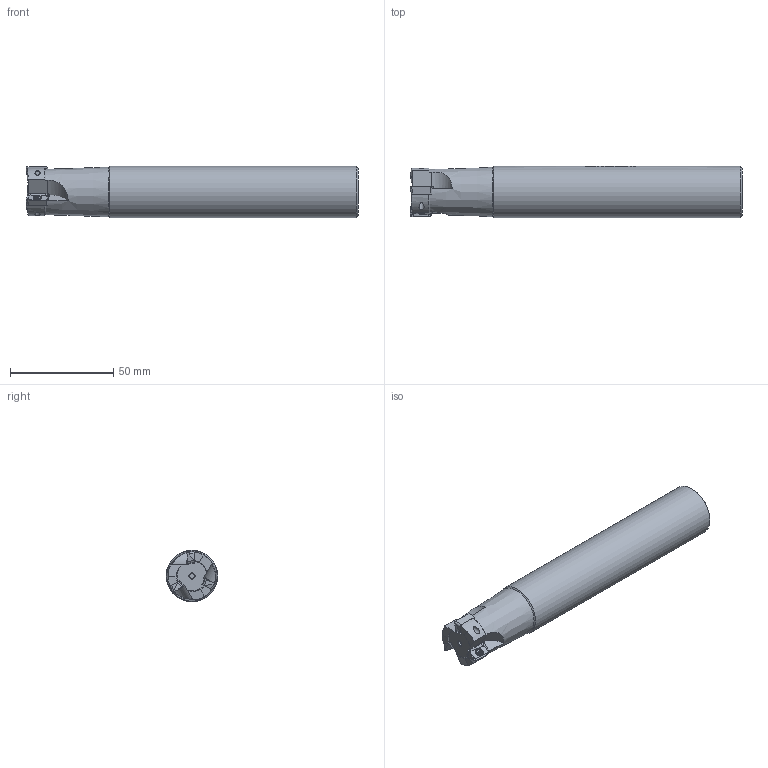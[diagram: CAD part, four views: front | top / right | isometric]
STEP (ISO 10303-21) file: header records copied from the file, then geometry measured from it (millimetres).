
FILE_DESCRIPTION(/* description */ (''),/* implementation_level */ '2;1');
FILE_NAME(/* name */ 'Z:\Проектный отдел\Арина\Токарные инструменты\Фрезы и резцы\BAP300R-C25-25-160-3T\BAP300R 25 3TC25-160La.stp',/* time_stamp */ '2023-05-31T16:44:33+03:00',/* author */ ('user'),/* organization */ (''),/* preprocessor_version */ 'ST-DEVELOPER v18',/* originating_system */ 'Autodesk Inventor 2020',/* authorisation */ '');
FILE_SCHEMA (('AUTOMOTIVE_DESIGN { 1 0 10303 214 3 1 1 }'));
Length unit declared in the file: millimetre
Products named in the file (4): BAP300R 25 3TC25-160La; BAP300R-C10-10-150-1T; Напайка; Болт
Assembly tree (7 placements, depth 2):
  BAP300R 25 3TC25-160La
    BAP300R-C10-10-150-1T
    Напайка  x3
    Болт  x3
Bounding box: 160.64 x 25 x 25 mm (x, y, z)
Volume: 73779.7 mm3; surface area: 14441 mm2
Topology: 7 solids, 7 shells, 804 faces, 2214 edges, 1474 vertices
Faces by surface type: plane 347, bspline 336, cylinder 99, cone 22
Full cylindrical faces by diameter (mm): 2.5 x10, 3.1 x3, 3.3 x3, 4 x1, 25 x1
Entity records: 31574 total; most frequent: CARTESIAN_POINT 15588, ORIENTED_EDGE 3790, DIRECTION 2443, EDGE_CURVE 1895, VERTEX_POINT 1264, LINE 907, VECTOR 907, AXIS2_PLACEMENT_3D 768
